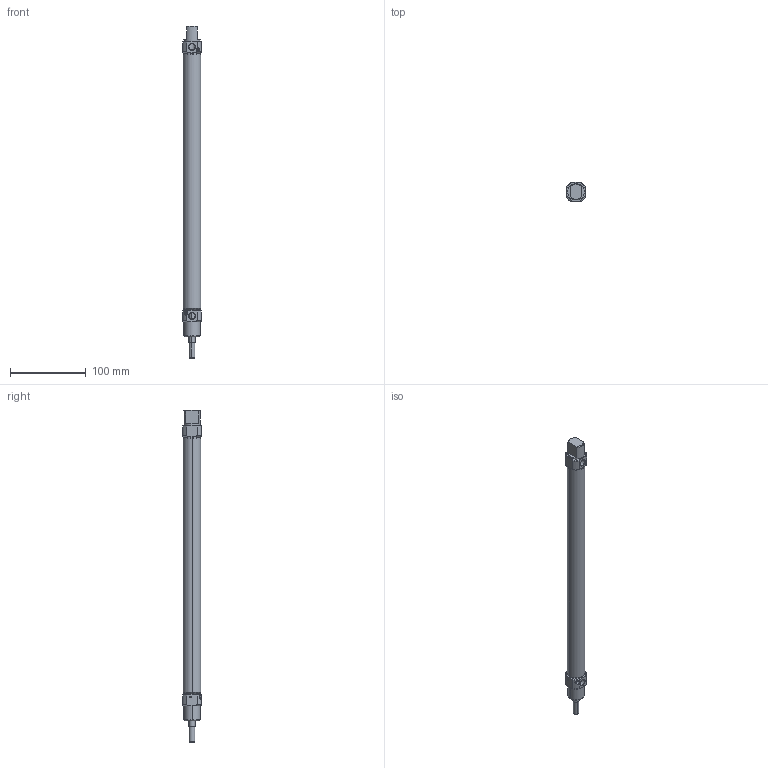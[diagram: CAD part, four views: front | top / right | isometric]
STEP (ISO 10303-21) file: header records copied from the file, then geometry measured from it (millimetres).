
FILE_DESCRIPTION (( 'STEP AP214' ), '1' );
FILE_NAME ('RMAY_20_300_WEB.STEP', '2021-05-09T12:14:53', ( '' ), ( '' ), 'SwSTEP 2.0', 'SolidWorks 2021', '' );
FILE_SCHEMA (( 'AUTOMOTIVE_DESIGN' ));
Length unit declared in the file: millimetre
Products named in the file (5): RMA_20_M尳_WEB; RMA_20_BORU_WEB; RMA_20_onkapak1; RMAY_20_300_WEB; RMA_20_ARKA_kapak
Assembly tree (4 placements, depth 2):
  RMAY_20_300_WEB
    RMA_20_BORU_WEB
    RMA_20_onkapak1
    RMA_20_ARKA_kapak
    RMA_20_M尳_WEB
Bounding box: 24.7 x 24.7 x 437.4 mm (x, y, z)
Volume: 67466.9 mm3; surface area: 60320.5 mm2
Topology: 4 solids, 4 shells, 213 faces, 498 edges, 313 vertices
Faces by surface type: cylinder 100, plane 52, cone 45, torus 16
Entity records: 7225 total; most frequent: CARTESIAN_POINT 1875, DIRECTION 1103, ORIENTED_EDGE 996, EDGE_CURVE 498, AXIS2_PLACEMENT_3D 465, VERTEX_POINT 313, EDGE_LOOP 253, CIRCLE 245
